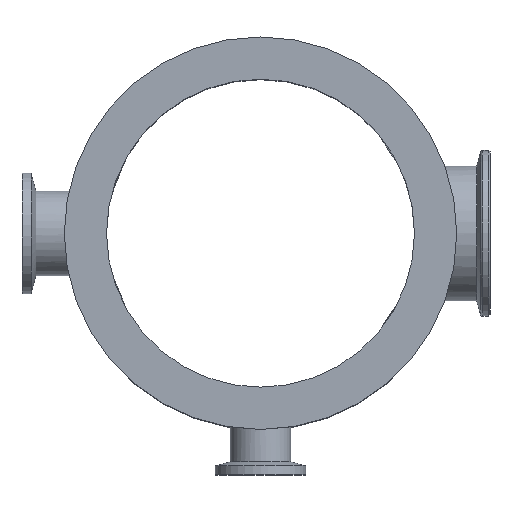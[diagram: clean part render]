
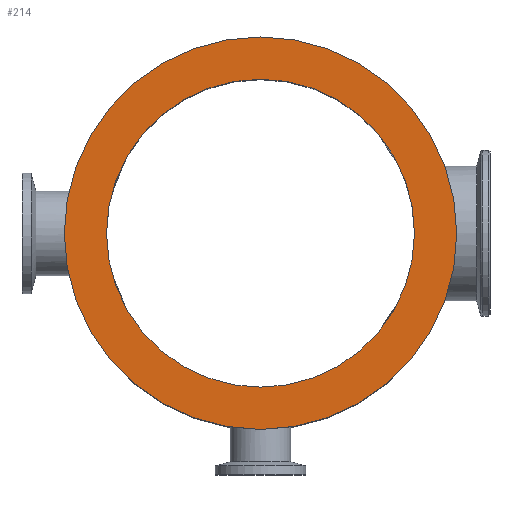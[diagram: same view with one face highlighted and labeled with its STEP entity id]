
A CAD part, top view. The second image highlights one B-rep face of the part: STEP entity #214.
In plain terms, the highlighted planar face has unit normal (0, 0, 1) as drawn and (0, 0, -1) by its records, which use the part's own axes.
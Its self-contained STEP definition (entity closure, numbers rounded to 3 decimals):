
#214 = ADVANCED_FACE( '', ( #404, #405 ), #406, .F. );
#404 = FACE_BOUND( '', #670, .T. );
#405 = FACE_OUTER_BOUND( '', #671, .T. );
#406 = PLANE( '', #672 );
#670 = EDGE_LOOP( '', ( #934 ) );
#671 = EDGE_LOOP( '', ( #935 ) );
#672 = AXIS2_PLACEMENT_3D( '', #936, #937, #938 );
#934 = ORIENTED_EDGE( '', *, *, #1304, .F. );
#935 = ORIENTED_EDGE( '', *, *, #1305, .T. );
#936 = CARTESIAN_POINT( '', ( -51., 0., 0. ) );
#937 = DIRECTION( '', ( 0., 0., 1. ) );
#938 = DIRECTION( '', ( 1., 0., 0. ) );
#1304 = EDGE_CURVE( '', #1444, #1444, #1445, .T. );
#1305 = EDGE_CURVE( '', #1446, #1446, #1447, .T. );
#1444 = VERTEX_POINT( '', #1640 );
#1445 = CIRCLE( '', #1641, 51. );
#1446 = VERTEX_POINT( '', #1642 );
#1447 = CIRCLE( '', #1643, 65. );
#1640 = CARTESIAN_POINT( '', ( -51., 0., 0. ) );
#1641 = AXIS2_PLACEMENT_3D( '', #3029, #3030, #3031 );
#1642 = CARTESIAN_POINT( '', ( -65., 0., 0. ) );
#1643 = AXIS2_PLACEMENT_3D( '', #3032, #3033, #3034 );
#3029 = CARTESIAN_POINT( '', ( 0., 0., 0. ) );
#3030 = DIRECTION( '', ( 0., 0., -1. ) );
#3031 = DIRECTION( '', ( -1., 0., 0. ) );
#3032 = CARTESIAN_POINT( '', ( 0., 0., 0. ) );
#3033 = DIRECTION( '', ( 0., 0., -1. ) );
#3034 = DIRECTION( '', ( -1., 0., 0. ) );
